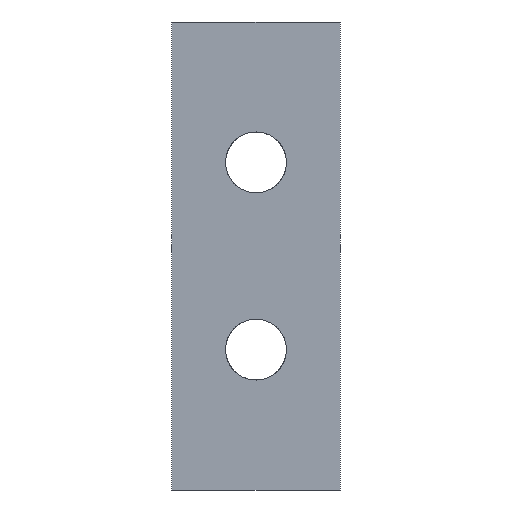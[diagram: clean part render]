
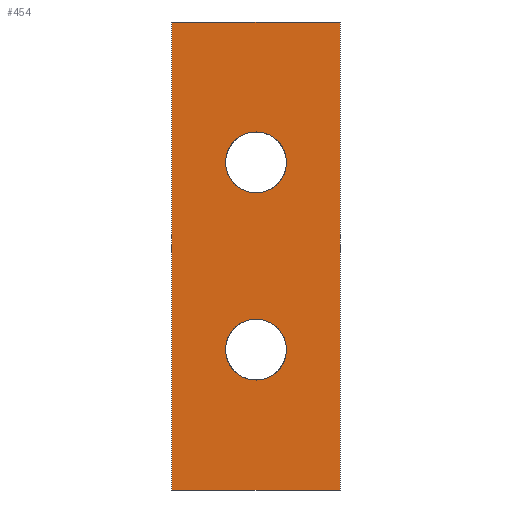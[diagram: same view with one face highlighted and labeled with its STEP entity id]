
A CAD part, front view. The second image highlights one B-rep face of the part: STEP entity #454.
In plain terms, the highlighted face is a extrusion surface.
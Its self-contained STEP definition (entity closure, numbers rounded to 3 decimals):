
#343=CARTESIAN_POINT('Control Point',(-18.,0.,0.)) ;
#344=CARTESIAN_POINT('Control Point',(-18.,0.,-50.)) ;
#348=CARTESIAN_POINT('Line Origine',(-9.,0.,-50.)) ;
#352=CARTESIAN_POINT('Vertex',(-18.,0.,-50.)) ;
#354=CARTESIAN_POINT('Vertex',(0.,0.,-50.)) ;
#357=CARTESIAN_POINT('Line Origine',(0.,0.,-25.)) ;
#361=CARTESIAN_POINT('Vertex',(0.,0.,0.)) ;
#364=CARTESIAN_POINT('Line Origine',(-9.,0.,0.)) ;
#368=CARTESIAN_POINT('Vertex',(-18.,0.,0.)) ;
#371=CARTESIAN_POINT('Line Origine',(-18.,0.,-25.)) ;
#383=CARTESIAN_POINT('Control Point',(-5.75,0.,-35.)) ;
#384=CARTESIAN_POINT('Control Point',(-5.75,0.,-35.707)) ;
#385=CARTESIAN_POINT('Control Point',(-5.942,0.,-36.413)) ;
#386=CARTESIAN_POINT('Control Point',(-6.327,0.,-37.05)) ;
#387=CARTESIAN_POINT('Control Point',(-7.131,0.,-37.798)) ;
#388=CARTESIAN_POINT('Control Point',(-8.136,0.,-38.163)) ;
#389=CARTESIAN_POINT('Control Point',(-8.486,0.,-38.238)) ;
#390=CARTESIAN_POINT('Control Point',(-9.83,0.,-38.34)) ;
#391=CARTESIAN_POINT('Control Point',(-11.133,0.,-37.757)) ;
#392=CARTESIAN_POINT('Control Point',(-11.879,0.,-36.964)) ;
#393=CARTESIAN_POINT('Control Point',(-12.25,0.,-35.982)) ;
#394=CARTESIAN_POINT('Control Point',(-12.25,0.,-35.)) ;
#395=CARTESIAN_POINT('Vertex',(-5.75,0.,-35.)) ;
#397=CARTESIAN_POINT('Vertex',(-12.25,0.,-35.)) ;
#401=CARTESIAN_POINT('Control Point',(-12.25,0.,-35.)) ;
#402=CARTESIAN_POINT('Control Point',(-12.25,0.,-34.647)) ;
#403=CARTESIAN_POINT('Control Point',(-12.202,0.,-34.293)) ;
#404=CARTESIAN_POINT('Control Point',(-12.106,0.,-33.949)) ;
#405=CARTESIAN_POINT('Control Point',(-11.681,0.,-32.967)) ;
#406=CARTESIAN_POINT('Control Point',(-10.887,0.,-32.209)) ;
#407=CARTESIAN_POINT('Control Point',(-10.228,0.,-31.863)) ;
#408=CARTESIAN_POINT('Control Point',(-8.515,0.,-31.506)) ;
#409=CARTESIAN_POINT('Control Point',(-6.867,0.,-32.243)) ;
#410=CARTESIAN_POINT('Control Point',(-6.121,0.,-33.036)) ;
#411=CARTESIAN_POINT('Control Point',(-5.75,0.,-34.018)) ;
#412=CARTESIAN_POINT('Control Point',(-5.75,0.,-35.)) ;
#419=CARTESIAN_POINT('Control Point',(-5.75,0.,-15.)) ;
#420=CARTESIAN_POINT('Control Point',(-5.75,0.,-15.353)) ;
#421=CARTESIAN_POINT('Control Point',(-5.798,0.,-15.707)) ;
#422=CARTESIAN_POINT('Control Point',(-5.894,0.,-16.051)) ;
#423=CARTESIAN_POINT('Control Point',(-6.319,0.,-17.033)) ;
#424=CARTESIAN_POINT('Control Point',(-7.113,0.,-17.791)) ;
#425=CARTESIAN_POINT('Control Point',(-7.772,0.,-18.137)) ;
#426=CARTESIAN_POINT('Control Point',(-9.485,0.,-18.494)) ;
#427=CARTESIAN_POINT('Control Point',(-11.133,0.,-17.757)) ;
#428=CARTESIAN_POINT('Control Point',(-11.879,0.,-16.964)) ;
#429=CARTESIAN_POINT('Control Point',(-12.25,0.,-15.982)) ;
#430=CARTESIAN_POINT('Control Point',(-12.25,0.,-15.)) ;
#431=CARTESIAN_POINT('Vertex',(-5.75,0.,-15.)) ;
#433=CARTESIAN_POINT('Vertex',(-12.25,0.,-15.)) ;
#437=CARTESIAN_POINT('Control Point',(-12.25,0.,-15.)) ;
#438=CARTESIAN_POINT('Control Point',(-12.25,0.,-14.293)) ;
#439=CARTESIAN_POINT('Control Point',(-12.058,0.,-13.587)) ;
#440=CARTESIAN_POINT('Control Point',(-11.673,0.,-12.95)) ;
#441=CARTESIAN_POINT('Control Point',(-10.869,0.,-12.202)) ;
#442=CARTESIAN_POINT('Control Point',(-9.864,0.,-11.837)) ;
#443=CARTESIAN_POINT('Control Point',(-9.514,0.,-11.762)) ;
#444=CARTESIAN_POINT('Control Point',(-8.17,0.,-11.66)) ;
#445=CARTESIAN_POINT('Control Point',(-6.867,0.,-12.243)) ;
#446=CARTESIAN_POINT('Control Point',(-6.121,0.,-13.036)) ;
#447=CARTESIAN_POINT('Control Point',(-5.75,0.,-14.018)) ;
#448=CARTESIAN_POINT('Control Point',(-5.75,0.,-15.)) ;
#345=DIRECTION('Vector Direction',(1.,0.,0.)) ;
#349=DIRECTION('Vector Direction',(1.,0.,0.)) ;
#358=DIRECTION('Vector Direction',(0.,0.,-1.)) ;
#365=DIRECTION('Vector Direction',(1.,0.,0.)) ;
#372=DIRECTION('Vector Direction',(0.,0.,-1.)) ;
#377=ORIENTED_EDGE('',*,*,#356,.T.) ;
#378=ORIENTED_EDGE('',*,*,#363,.T.) ;
#379=ORIENTED_EDGE('',*,*,#370,.T.) ;
#380=ORIENTED_EDGE('',*,*,#375,.T.) ;
#415=ORIENTED_EDGE('',*,*,#399,.T.) ;
#416=ORIENTED_EDGE('',*,*,#413,.T.) ;
#451=ORIENTED_EDGE('',*,*,#435,.T.) ;
#452=ORIENTED_EDGE('',*,*,#449,.T.) ;
#417=FACE_BOUND('',#414,.T.) ;
#453=FACE_BOUND('',#450,.T.) ;
#346=VECTOR('Extrusion Surface Vector',#345,1.) ;
#350=VECTOR('Line Direction',#349,1.) ;
#359=VECTOR('Line Direction',#358,1.) ;
#366=VECTOR('Line Direction',#365,1.) ;
#373=VECTOR('Line Direction',#372,1.) ;
#454=ADVANCED_FACE('Superficie.6',(#381,#417,#453),#347,.T.) ;
#342=B_SPLINE_CURVE_WITH_KNOTS('',1,(#343,#344),.UNSPECIFIED.,.F.,.U.,(2,2),(-25.,25.),.UNSPECIFIED.) ;
#382=B_SPLINE_CURVE_WITH_KNOTS('',5,(#383,#384,#385,#386,#387,#388,#389,#390,#391,#392,#393,#394),.UNSPECIFIED.,.F.,.U.,(6,3,3,6),(0.,4.996,7.494,14.439),.UNSPECIFIED.) ;
#400=B_SPLINE_CURVE_WITH_KNOTS('',5,(#401,#402,#403,#404,#405,#406,#407,#408,#409,#410,#411,#412),.UNSPECIFIED.,.F.,.U.,(6,3,3,6),(0.,2.498,7.494,14.439),.UNSPECIFIED.) ;
#418=B_SPLINE_CURVE_WITH_KNOTS('',5,(#419,#420,#421,#422,#423,#424,#425,#426,#427,#428,#429,#430),.UNSPECIFIED.,.F.,.U.,(6,3,3,6),(0.,2.498,7.494,14.439),.UNSPECIFIED.) ;
#436=B_SPLINE_CURVE_WITH_KNOTS('',5,(#437,#438,#439,#440,#441,#442,#443,#444,#445,#446,#447,#448),.UNSPECIFIED.,.F.,.U.,(6,3,3,6),(0.,4.996,7.494,14.439),.UNSPECIFIED.) ;
#356=EDGE_CURVE('',#353,#355,#351,.T.) ;
#363=EDGE_CURVE('',#355,#362,#360,.F.) ;
#370=EDGE_CURVE('',#362,#369,#367,.F.) ;
#375=EDGE_CURVE('',#369,#353,#374,.T.) ;
#399=EDGE_CURVE('',#396,#398,#382,.T.) ;
#413=EDGE_CURVE('',#398,#396,#400,.T.) ;
#435=EDGE_CURVE('',#432,#434,#418,.T.) ;
#449=EDGE_CURVE('',#434,#432,#436,.T.) ;
#376=EDGE_LOOP('',(#377,#378,#379,#380)) ;
#414=EDGE_LOOP('',(#415,#416)) ;
#450=EDGE_LOOP('',(#451,#452)) ;
#381=FACE_OUTER_BOUND('',#376,.T.) ;
#351=LINE('Line',#348,#350) ;
#360=LINE('Line',#357,#359) ;
#367=LINE('Line',#364,#366) ;
#374=LINE('Line',#371,#373) ;
#347=SURFACE_OF_LINEAR_EXTRUSION('generated tabulated cylinder',#342,#346) ;
#353=VERTEX_POINT('',#352) ;
#355=VERTEX_POINT('',#354) ;
#362=VERTEX_POINT('',#361) ;
#369=VERTEX_POINT('',#368) ;
#396=VERTEX_POINT('',#395) ;
#398=VERTEX_POINT('',#397) ;
#432=VERTEX_POINT('',#431) ;
#434=VERTEX_POINT('',#433) ;
